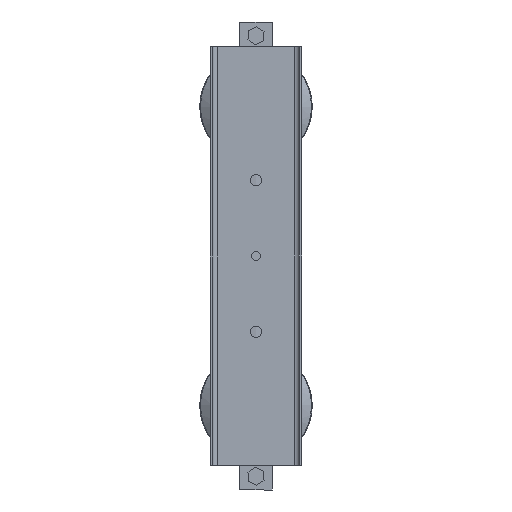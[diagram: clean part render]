
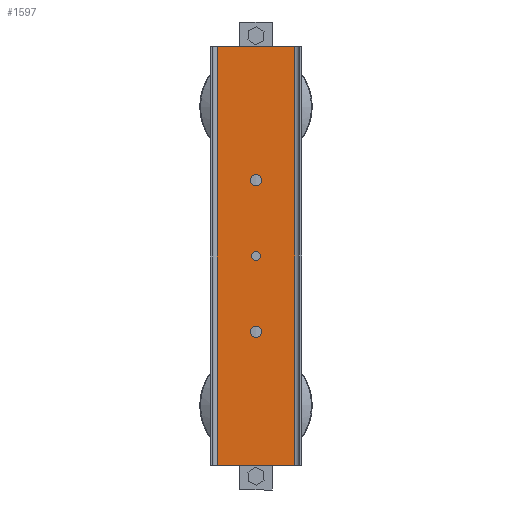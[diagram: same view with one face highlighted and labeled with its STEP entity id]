
A CAD part, front view. The second image highlights one B-rep face of the part: STEP entity #1597.
In plain terms, the highlighted planar face has unit normal (0, -1, 0).
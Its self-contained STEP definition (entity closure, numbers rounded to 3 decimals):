
#16 = VERTEX_POINT ( 'NONE', #4195 ) ;
#210 = CARTESIAN_POINT ( 'NONE',  ( 0., -3., -82.5 ) ) ;
#429 = CARTESIAN_POINT ( 'NONE',  ( 42., -3., 227.5 ) ) ;
#521 = CARTESIAN_POINT ( 'NONE',  ( 42., -3., -227.5 ) ) ;
#530 = ORIENTED_EDGE ( 'NONE', *, *, #5285, .T. ) ;
#707 = FACE_BOUND ( 'NONE', #957, .T. ) ;
#816 = EDGE_CURVE ( 'NONE', #2449, #2449, #2878, .T. ) ;
#934 = VERTEX_POINT ( 'NONE', #1146 ) ;
#957 = EDGE_LOOP ( 'NONE', ( #2231 ) ) ;
#972 = ORIENTED_EDGE ( 'NONE', *, *, #1680, .T. ) ;
#1044 = EDGE_LOOP ( 'NONE', ( #2831 ) ) ;
#1101 = LINE ( 'NONE', #5052, #3395 ) ;
#1146 = CARTESIAN_POINT ( 'NONE',  ( 5., -3., 0. ) ) ;
#1235 = LINE ( 'NONE', #1566, #4776 ) ;
#1334 = EDGE_CURVE ( 'NONE', #3589, #3986, #4927, .T. ) ;
#1356 = DIRECTION ( 'NONE',  ( -1., 0., 0. ) ) ;
#1384 = VECTOR ( 'NONE', #4203, 1000. ) ;
#1386 = EDGE_CURVE ( 'NONE', #16, #3589, #1235, .T. ) ;
#1566 = CARTESIAN_POINT ( 'NONE',  ( -42., -3., -227.5 ) ) ;
#1580 = CARTESIAN_POINT ( 'NONE',  ( -6.25, -3., 82.5 ) ) ;
#1597 = ADVANCED_FACE ( 'NONE', ( #2746, #707, #5224, #3961 ), #3365, .F. ) ;
#1602 = DIRECTION ( 'NONE',  ( 0., -1., 0. ) ) ;
#1680 = EDGE_CURVE ( 'NONE', #16, #4995, #2322, .T. ) ;
#1764 = EDGE_CURVE ( 'NONE', #934, #934, #5289, .T. ) ;
#1768 = AXIS2_PLACEMENT_3D ( 'NONE', #3491, #5025, #2240 ) ;
#2102 = EDGE_CURVE ( 'NONE', #3232, #3232, #5859, .T. ) ;
#2231 = ORIENTED_EDGE ( 'NONE', *, *, #2102, .F. ) ;
#2240 = DIRECTION ( 'NONE',  ( 1., 0., 0. ) ) ;
#2279 = AXIS2_PLACEMENT_3D ( 'NONE', #210, #1602, #3768 ) ;
#2322 = LINE ( 'NONE', #521, #3388 ) ;
#2449 = VERTEX_POINT ( 'NONE', #1580 ) ;
#2664 = CARTESIAN_POINT ( 'NONE',  ( 0., -3., 82.5 ) ) ;
#2746 = FACE_BOUND ( 'NONE', #4649, .T. ) ;
#2764 = ORIENTED_EDGE ( 'NONE', *, *, #1334, .F. ) ;
#2831 = ORIENTED_EDGE ( 'NONE', *, *, #816, .F. ) ;
#2878 = CIRCLE ( 'NONE', #3144, 6.25 ) ;
#3036 = ORIENTED_EDGE ( 'NONE', *, *, #1386, .F. ) ;
#3103 = DIRECTION ( 'NONE',  ( -1., 0., 0. ) ) ;
#3144 = AXIS2_PLACEMENT_3D ( 'NONE', #2664, #5906, #3103 ) ;
#3232 = VERTEX_POINT ( 'NONE', #4849 ) ;
#3365 = PLANE ( 'NONE',  #4679 ) ;
#3388 = VECTOR ( 'NONE', #4877, 1000. ) ;
#3395 = VECTOR ( 'NONE', #1356, 1000. ) ;
#3491 = CARTESIAN_POINT ( 'NONE',  ( 0., -3., 0. ) ) ;
#3553 = CARTESIAN_POINT ( 'NONE',  ( -42., -3., -227.5 ) ) ;
#3589 = VERTEX_POINT ( 'NONE', #3702 ) ;
#3702 = CARTESIAN_POINT ( 'NONE',  ( -42., -3., -227.5 ) ) ;
#3768 = DIRECTION ( 'NONE',  ( -1., 0., 0. ) ) ;
#3864 = CARTESIAN_POINT ( 'NONE',  ( -42., -3., 227.5 ) ) ;
#3961 = FACE_OUTER_BOUND ( 'NONE', #5077, .T. ) ;
#3986 = VERTEX_POINT ( 'NONE', #3864 ) ;
#4195 = CARTESIAN_POINT ( 'NONE',  ( 42., -3., -227.5 ) ) ;
#4203 = DIRECTION ( 'NONE',  ( 0., 0., 1. ) ) ;
#4283 = DIRECTION ( 'NONE',  ( -1., 0., 0. ) ) ;
#4649 = EDGE_LOOP ( 'NONE', ( #5260 ) ) ;
#4679 = AXIS2_PLACEMENT_3D ( 'NONE', #3553, #5905, #5453 ) ;
#4776 = VECTOR ( 'NONE', #4283, 1000. ) ;
#4849 = CARTESIAN_POINT ( 'NONE',  ( -6.25, -3., -82.5 ) ) ;
#4877 = DIRECTION ( 'NONE',  ( 0., 0., 1. ) ) ;
#4927 = LINE ( 'NONE', #5621, #1384 ) ;
#4995 = VERTEX_POINT ( 'NONE', #429 ) ;
#5025 = DIRECTION ( 'NONE',  ( 0., -1., 0. ) ) ;
#5052 = CARTESIAN_POINT ( 'NONE',  ( -42., -3., 227.5 ) ) ;
#5077 = EDGE_LOOP ( 'NONE', ( #530, #2764, #3036, #972 ) ) ;
#5224 = FACE_BOUND ( 'NONE', #1044, .T. ) ;
#5260 = ORIENTED_EDGE ( 'NONE', *, *, #1764, .F. ) ;
#5285 = EDGE_CURVE ( 'NONE', #4995, #3986, #1101, .T. ) ;
#5289 = CIRCLE ( 'NONE', #1768, 5. ) ;
#5453 = DIRECTION ( 'NONE',  ( 1., 0., 0. ) ) ;
#5621 = CARTESIAN_POINT ( 'NONE',  ( -42., -3., -227.5 ) ) ;
#5859 = CIRCLE ( 'NONE', #2279, 6.25 ) ;
#5905 = DIRECTION ( 'NONE',  ( 0., 1., 0. ) ) ;
#5906 = DIRECTION ( 'NONE',  ( 0., -1., 0. ) ) ;
